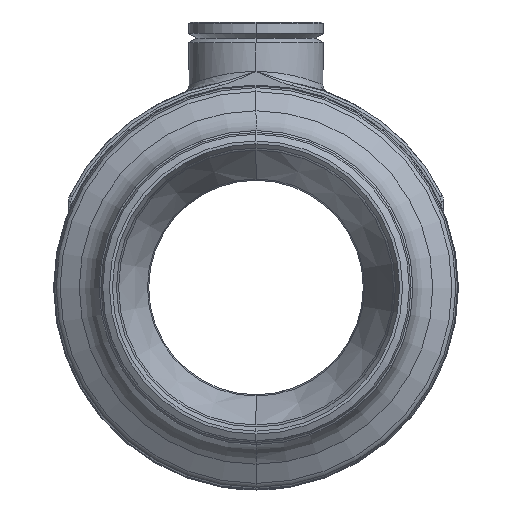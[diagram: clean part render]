
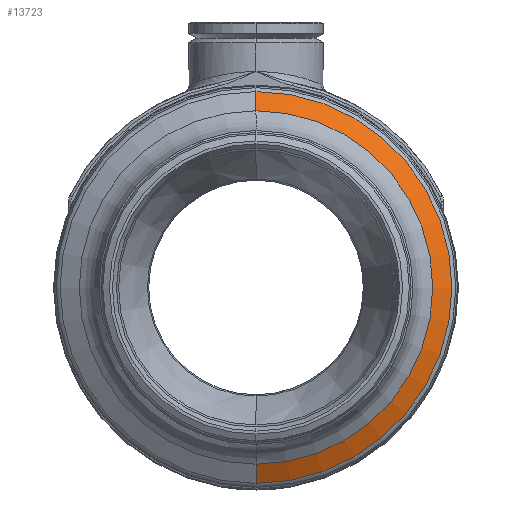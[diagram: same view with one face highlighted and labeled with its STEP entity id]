
A CAD part, left-side view. The second image highlights one B-rep face of the part: STEP entity #13723.
In plain terms, the highlighted conical face has half-angle 59.534 degrees and reference radius 69.465 mm.
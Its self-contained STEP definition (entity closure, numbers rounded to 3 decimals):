
#3650=CARTESIAN_POINT('',(-55.65,0.,0.));
#3651=DIRECTION('',(1.,0.,0.));
#3652=DIRECTION('',(0.,0.,1.));
#3653=AXIS2_PLACEMENT_3D('',#3650,#3651,#3652);
#3655=DIRECTION('',(-0.507,0.,0.862));
#3656=VECTOR('',#3655,8.284);
#3657=CARTESIAN_POINT('',(-55.65,0.,
-73.035));
#3658=LINE('',#3657,#3656);
#3659=CARTESIAN_POINT('',(-59.85,0.,0.));
#3660=DIRECTION('',(1.,0.,0.));
#3661=DIRECTION('',(0.,0.,1.));
#3662=AXIS2_PLACEMENT_3D('',#3659,#3660,#3661);
#3664=DIRECTION('',(-0.507,0.,-0.862));
#3665=VECTOR('',#3664,8.284);
#3666=CARTESIAN_POINT('',(-55.65,0.,
73.035));
#3667=LINE('',#3666,#3665);
#6702=CARTESIAN_POINT('',(-55.65,0.,
-73.035));
#6703=CARTESIAN_POINT('',(-55.65,0.,
73.035));
#6704=VERTEX_POINT('',#6702);
#6705=VERTEX_POINT('',#6703);
#6710=CARTESIAN_POINT('',(-59.85,0.,
65.895));
#6711=VERTEX_POINT('',#6710);
#6712=CARTESIAN_POINT('',(-59.85,0.,
-65.895));
#6713=VERTEX_POINT('',#6712);
#13709=CARTESIAN_POINT('',(-57.75,0.,0.));
#13710=DIRECTION('',(1.,0.,0.));
#13711=DIRECTION('',(0.,0.,1.));
#13712=AXIS2_PLACEMENT_3D('',#13709,#13710,#13711);
#13713=CONICAL_SURFACE('',#13712,69.465,59.534);
#13715=ORIENTED_EDGE('',*,*,#13714,.T.);
#13717=ORIENTED_EDGE('',*,*,#13716,.T.);
#13718=ORIENTED_EDGE('',*,*,#13703,.F.);
#13720=ORIENTED_EDGE('',*,*,#13719,.F.);
#13721=EDGE_LOOP('',(#13715,#13717,#13718,#13720));
#13722=FACE_OUTER_BOUND('',#13721,.F.);
#13723=ADVANCED_FACE('',(#13722),#13713,.T.);
#3654=CIRCLE('',#3653,73.035);
#3663=CIRCLE('',#3662,65.895);
#13703=EDGE_CURVE('',#6711,#6713,#3663,.T.);
#13714=EDGE_CURVE('',#6705,#6704,#3654,.T.);
#13716=EDGE_CURVE('',#6704,#6713,#3658,.T.);
#13719=EDGE_CURVE('',#6705,#6711,#3667,.T.);
